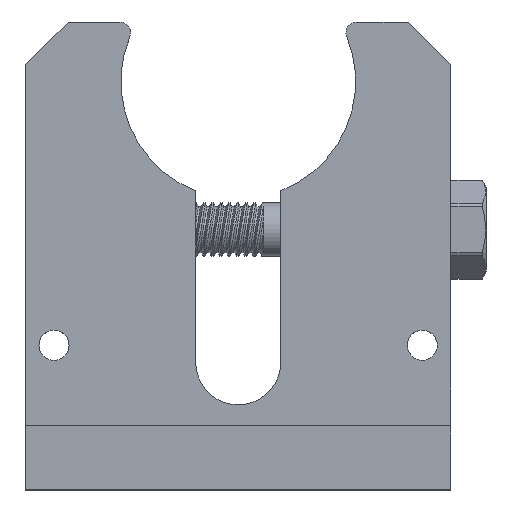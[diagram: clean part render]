
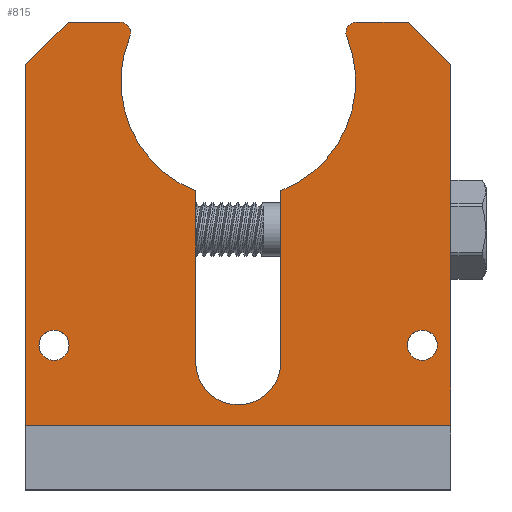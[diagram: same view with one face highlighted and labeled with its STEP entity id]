
A CAD part, top view. The second image highlights one B-rep face of the part: STEP entity #815.
In plain terms, the highlighted planar face has unit normal (0, 0, 1).
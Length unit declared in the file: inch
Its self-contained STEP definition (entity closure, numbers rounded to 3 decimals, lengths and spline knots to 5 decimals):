
#380=CARTESIAN_POINT('',(-0.25,1.00734,0.));
#381=VERTEX_POINT('',#380);
#382=CARTESIAN_POINT('',(-0.25,0.0,0.));
#383=VERTEX_POINT('',#382);
#384=CARTESIAN_POINT('',(-0.25,1.00734,0.));
#385=DIRECTION('',(0.0,-1.0,0.0));
#386=VECTOR('',#385,1.00734);
#387=LINE('',#384,#386);
#388=EDGE_CURVE('',#381,#383,#387,.T.);
#423=CARTESIAN_POINT('',(-1.25,-0.375,0.));
#424=VERTEX_POINT('',#423);
#425=CARTESIAN_POINT('',(-1.25,1.75,0.));
#426=VERTEX_POINT('',#425);
#427=CARTESIAN_POINT('',(-1.25,-0.375,0.));
#428=DIRECTION('',(0.0,1.0,0.0));
#429=VECTOR('',#428,2.125);
#430=LINE('',#427,#429);
#431=EDGE_CURVE('',#424,#426,#430,.T.);
#514=CARTESIAN_POINT('',(1.1705,0.1,0.));
#515=VERTEX_POINT('',#514);
#516=CARTESIAN_POINT('',(1.082,0.1,0.0));
#517=DIRECTION('',(0.0,0.0,-1.0));
#518=DIRECTION('',(1.0,0.0,0.0));
#519=AXIS2_PLACEMENT_3D('',#516,#517,#518);
#520=CIRCLE('',#519,0.0885);
#521=EDGE_CURVE('',#515,#515,#520,.T.);
#563=CARTESIAN_POINT('',(-0.9945,0.1,0.));
#564=VERTEX_POINT('',#563);
#565=CARTESIAN_POINT('',(-1.083,0.1,0.0));
#566=DIRECTION('',(0.0,0.0,-1.0));
#567=DIRECTION('',(1.0,0.0,0.0));
#568=AXIS2_PLACEMENT_3D('',#565,#566,#567);
#569=CIRCLE('',#568,0.0885);
#570=EDGE_CURVE('',#564,#564,#569,.T.);
#678=CARTESIAN_POINT('',(1.25,-0.375,0.));
#679=VERTEX_POINT('',#678);
#680=CARTESIAN_POINT('',(-1.25,-0.375,0.0));
#681=DIRECTION('',(1.0,0.0,0.0));
#682=VECTOR('',#681,2.5);
#683=LINE('',#680,#682);
#684=EDGE_CURVE('',#424,#679,#683,.T.);
#710=CARTESIAN_POINT('',(0.,0.67731,0.));
#711=DIRECTION('',(0.0,0.0,1.0));
#712=DIRECTION('',(1.0,0.0,0.0));
#713=AXIS2_PLACEMENT_3D('',#710,#711,#712);
#714=PLANE('',#713);
#715=CARTESIAN_POINT('',(0.6956,2.,0.));
#716=VERTEX_POINT('',#715);
#717=CARTESIAN_POINT('',(1.,2.,0.));
#718=VERTEX_POINT('',#717);
#719=CARTESIAN_POINT('',(0.6956,2.,0.));
#720=DIRECTION('',(1.0,0.0,0.0));
#721=VECTOR('',#720,0.3044);
#722=LINE('',#719,#721);
#723=EDGE_CURVE('',#716,#718,#722,.T.);
#724=ORIENTED_EDGE('',*,*,#723,.F.);
#725=CARTESIAN_POINT('',(0.63783,1.91366,0.));
#726=VERTEX_POINT('',#725);
#727=CARTESIAN_POINT('',(0.6956,1.9375,0.));
#728=DIRECTION('',(0.0,0.0,-1.0));
#729=DIRECTION('',(0.,-1.0,0.0));
#730=AXIS2_PLACEMENT_3D('',#727,#728,#729);
#731=CIRCLE('',#730,0.0625);
#732=EDGE_CURVE('',#726,#716,#731,.T.);
#733=ORIENTED_EDGE('',*,*,#732,.F.);
#734=CARTESIAN_POINT('',(0.25,1.00734,0.));
#735=VERTEX_POINT('',#734);
#736=CARTESIAN_POINT('',(0.,1.65046,0.));
#737=DIRECTION('',(0.0,0.0,1.0));
#738=DIRECTION('',(0.362,-0.932,0.0));
#739=AXIS2_PLACEMENT_3D('',#736,#737,#738);
#740=CIRCLE('',#739,0.69);
#741=EDGE_CURVE('',#735,#726,#740,.T.);
#742=ORIENTED_EDGE('',*,*,#741,.F.);
#743=CARTESIAN_POINT('',(0.25,0.0,0.));
#744=VERTEX_POINT('',#743);
#745=CARTESIAN_POINT('',(0.25,0.0,0.));
#746=DIRECTION('',(0.0,1.0,0.0));
#747=VECTOR('',#746,1.00734);
#748=LINE('',#745,#747);
#749=EDGE_CURVE('',#744,#735,#748,.T.);
#750=ORIENTED_EDGE('',*,*,#749,.F.);
#751=CARTESIAN_POINT('',(0.0,0.0,0.));
#752=DIRECTION('',(0.0,0.0,1.0));
#753=DIRECTION('',(-1.0,0.0,0.0));
#754=AXIS2_PLACEMENT_3D('',#751,#752,#753);
#755=CIRCLE('',#754,0.25);
#756=EDGE_CURVE('',#383,#744,#755,.T.);
#757=ORIENTED_EDGE('',*,*,#756,.F.);
#758=ORIENTED_EDGE('',*,*,#388,.F.);
#759=CARTESIAN_POINT('',(-0.63783,1.91366,0.));
#760=VERTEX_POINT('',#759);
#761=CARTESIAN_POINT('',(0.0,1.65046,0.));
#762=DIRECTION('',(0.0,0.0,1.));
#763=DIRECTION('',(-0.924,0.381,0.0));
#764=AXIS2_PLACEMENT_3D('',#761,#762,#763);
#765=CIRCLE('',#764,0.69);
#766=EDGE_CURVE('',#760,#381,#765,.T.);
#767=ORIENTED_EDGE('',*,*,#766,.F.);
#768=CARTESIAN_POINT('',(-0.6956,2.,0.));
#769=VERTEX_POINT('',#768);
#770=CARTESIAN_POINT('',(-0.6956,1.9375,0.));
#771=DIRECTION('',(0.0,0.0,-1.0));
#772=DIRECTION('',(-0.924,0.381,0.0));
#773=AXIS2_PLACEMENT_3D('',#770,#771,#772);
#774=CIRCLE('',#773,0.0625);
#775=EDGE_CURVE('',#769,#760,#774,.T.);
#776=ORIENTED_EDGE('',*,*,#775,.F.);
#777=CARTESIAN_POINT('',(-1.,2.,0.));
#778=VERTEX_POINT('',#777);
#779=CARTESIAN_POINT('',(-1.,2.,0.));
#780=DIRECTION('',(1.0,0.0,0.0));
#781=VECTOR('',#780,0.3044);
#782=LINE('',#779,#781);
#783=EDGE_CURVE('',#778,#769,#782,.T.);
#784=ORIENTED_EDGE('',*,*,#783,.F.);
#785=CARTESIAN_POINT('',(-1.25,1.75,0.));
#786=DIRECTION('',(0.707,0.707,0.));
#787=VECTOR('',#786,0.35355);
#788=LINE('',#785,#787);
#789=EDGE_CURVE('',#426,#778,#788,.T.);
#790=ORIENTED_EDGE('',*,*,#789,.F.);
#791=ORIENTED_EDGE('',*,*,#431,.F.);
#792=ORIENTED_EDGE('',*,*,#684,.T.);
#793=CARTESIAN_POINT('',(1.25,1.75,0.));
#794=VERTEX_POINT('',#793);
#795=CARTESIAN_POINT('',(1.25,1.75,0.));
#796=DIRECTION('',(0.0,-1.0,0.0));
#797=VECTOR('',#796,2.125);
#798=LINE('',#795,#797);
#799=EDGE_CURVE('',#794,#679,#798,.T.);
#800=ORIENTED_EDGE('',*,*,#799,.F.);
#801=CARTESIAN_POINT('',(1.,2.,0.));
#802=DIRECTION('',(0.707,-0.707,0.));
#803=VECTOR('',#802,0.35355);
#804=LINE('',#801,#803);
#805=EDGE_CURVE('',#718,#794,#804,.T.);
#806=ORIENTED_EDGE('',*,*,#805,.F.);
#807=EDGE_LOOP('',(#724,#733,#742,#750,#757,#758,#767,#776,#784,#790,#791,#792,#800,#806));
#808=FACE_OUTER_BOUND('',#807,.T.);
#809=ORIENTED_EDGE('',*,*,#521,.T.);
#810=EDGE_LOOP('',(#809));
#811=FACE_BOUND('',#810,.T.);
#812=ORIENTED_EDGE('',*,*,#570,.T.);
#813=EDGE_LOOP('',(#812));
#814=FACE_BOUND('',#813,.T.);
#815=ADVANCED_FACE('',(#808,#811,#814),#714,.T.);
